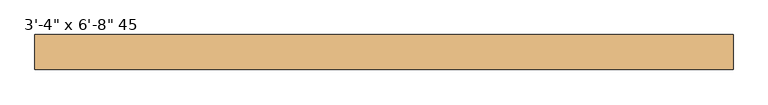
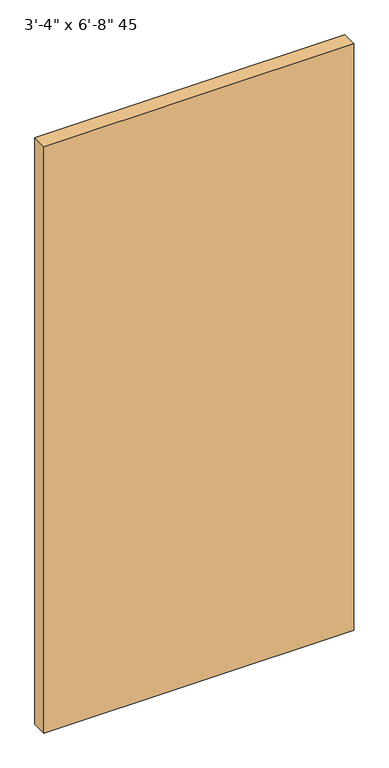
"""IFC4 building model written with IfcOpenShell, lengths in millimetres: door geometry."""

from ifc_helpers import new_model, si_unit, origin, origin_with_axes, place, context, project, spatial, polyline, outline, extrude, source, transform, mapped, element, save


def door_49ab4ca9(model_context):
    return source(origin(), model_context, "Body", "SweptSolid", [
        extrude(outline(polyline([(508.0, 6.1515625), (-508.0, 6.1515625), (-508.0, 57.15), (508.0, 57.15), (508.0, 6.1515625)])), origin_with_axes(), (0.0, 0.0, 1.0), 2032.0),
    ])


if __name__ == "__main__":
    model = new_model("IFC4")
    model_context = context("Model", 3, world=origin())
    ifc_project = project(units=[si_unit("LENGTHUNIT", "METRE", prefix="MILLI")], contexts=[model_context])
    site = spatial("IfcSite", under=ifc_project)
    building = spatial("IfcBuilding", under=site)
    placement = place(None, origin())
    door_shape = door_49ab4ca9(model_context)
    element("IfcDoor", 1, ObjectType="Planitar - Single Door_Flush Panel : 3'-4\" x 6'-8\" 45", at=placement, inside=building, context=model_context, shape_type="MappedRepresentation", body=[
        mapped(door_shape, transform((0.0, 0.0, 0.0), x_axis=(1.0, 0.0, 0.0), y_axis=(0.0, 1.0, 0.0), z_axis=(0.0, 0.0, 1.0))),
    ])
    save(model, "model.ifc")
